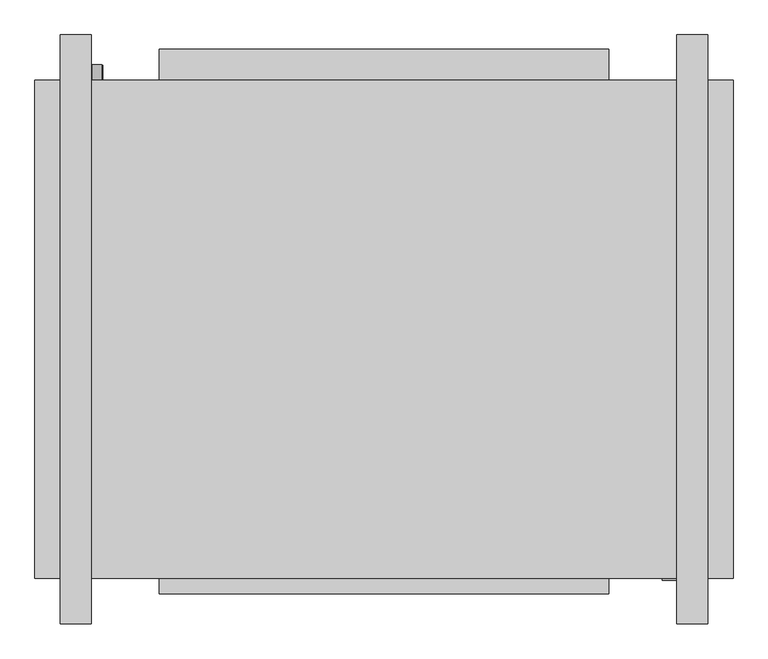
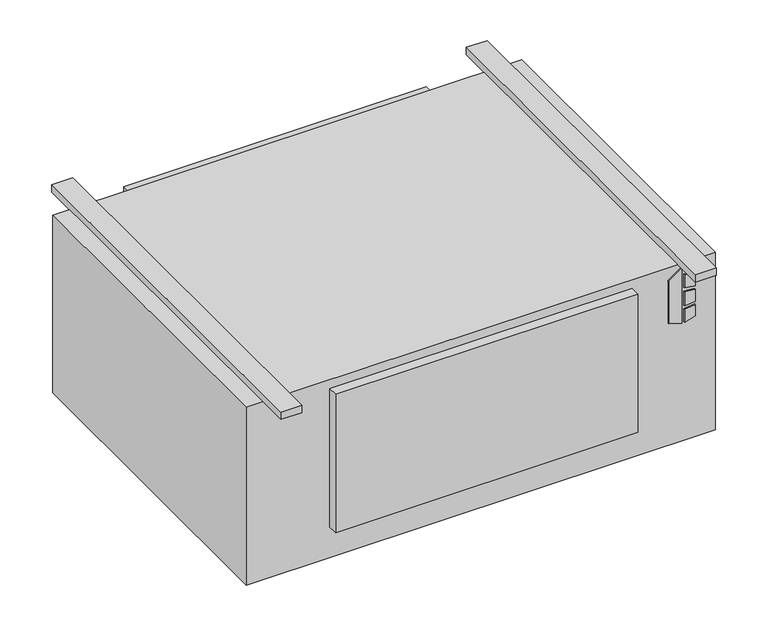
"""IFC4 building model written with IfcOpenShell, lengths in millimetres: proxy geometry, Concealed_High_Capacity_Horizontal_Cabinet_Fan_Coil_Unit_-_HXY_-_IEC_-_2-Pipe_Cool-EHeat_LH_2022 : Size 12 - 277v/60Hz/1Ph - 6 Row 9.0kW."""

from ifc_helpers import new_model, si_unit, point, frame, frame_2d, origin, origin_with_axes, place, context, project, spatial, polyline, circle_curve, trimmed, segment, composite_curve, outline, extrude, source, transform, mapped, element, save


def mechanical_equipment_fdf8b054(model_context):
    return source(origin(), model_context, "Body", "SweptSolid", [
        extrude(outline(polyline([(-142.4519297, 608.0868862), (-152.4, 640.2602728), (-10.2290756, 640.2602728), (-33.2510817, 608.0868862), (-142.4519297, 608.0868862)])), frame((0.0, -649.2875, 0.0), z_axis=(0.0, 1.0, 0.0), x_axis=(0.0, 0.0, 1.0)), (0.0, 0.0, 1.0), 3.175),
        extrude(outline(polyline([(-63.4526443, 647.0186058), (-66.6550368, 673.1), (-37.4261958, 673.1), (-29.3617807, 647.0186058), (-63.4526443, 647.0186058)])), frame((0.0, -649.2875, 0.0), z_axis=(0.0, 1.0, 0.0), x_axis=(0.0, 0.0, 1.0)), (0.0, 0.0, 1.0), 3.175),
        extrude(outline(polyline([(-115.3161712, 673.1), (-118.9816721, 647.0186058), (-152.4, 647.0186058), (-143.7657628, 673.1), (-115.3161712, 673.1)])), frame((0.0, -649.2875, 0.0), z_axis=(0.0, 1.0, 0.0), x_axis=(0.0, 0.0, 1.0)), (0.0, 0.0, 1.0), 3.175),
        extrude(outline(polyline([(-76.0010097, 673.1), (-73.7191834, 647.0186058), (-109.6567319, 647.0186058), (-106.9154669, 673.1), (-76.0010097, 673.1)])), frame((0.0, -649.2875, 0.0), z_axis=(0.0, 1.0, 0.0), x_axis=(0.0, 0.0, 1.0)), (0.0, 0.0, 1.0), 3.175),
        extrude(outline(composite_curve([segment(trimmed(circle_curve(frame_2d((-406.4, -317.5)), 9.525), [point((-406.4, -327.025))], [point((-406.4, -307.975))], False, "CARTESIAN"), True, "CONTINUOUS"), segment(trimmed(circle_curve(frame_2d((-406.4, -317.5)), 9.525), [point((-406.4, -307.975))], [point((-406.4, -327.025))], False, "CARTESIAN"), True, "CONTINUOUS")], self_intersect=False)), frame((0.0, 169.8625, 0.0), z_axis=(0.0, 1.0, 0.0), x_axis=(0.0, 0.0, 1.0)), (0.0, 0.0, 1.0), 25.4),
        extrude(outline(composite_curve([segment(trimmed(circle_curve(frame_2d((-330.2, -317.5)), 7.9375), [point((-330.2, -325.4375))], [point((-330.2, -309.5625))], False, "CARTESIAN"), True, "CONTINUOUS"), segment(trimmed(circle_curve(frame_2d((-330.2, -317.5)), 7.9375), [point((-330.2, -309.5625))], [point((-330.2, -325.4375))], False, "CARTESIAN"), True, "CONTINUOUS")], self_intersect=False)), frame((0.0, 169.8625, 0.0), z_axis=(0.0, 1.0, 0.0), x_axis=(0.0, 0.0, 1.0)), (0.0, 0.0, 1.0), 25.4),
        extrude(outline(composite_curve([segment(trimmed(circle_curve(frame_2d((-254.0, -317.5)), 7.9375), [point((-254.0, -325.4375))], [point((-254.0, -309.5625))], False, "CARTESIAN"), True, "CONTINUOUS"), segment(trimmed(circle_curve(frame_2d((-254.0, -317.5)), 7.9375), [point((-254.0, -309.5625))], [point((-254.0, -325.4375))], False, "CARTESIAN"), True, "CONTINUOUS")], self_intersect=False)), frame((0.0, 169.8625, 0.0), z_axis=(0.0, 1.0, 0.0), x_axis=(0.0, 0.0, 1.0)), (0.0, 0.0, 1.0), 25.4),
        extrude(outline(polyline([(723.9, 169.8625), (723.9, -646.1125), (-419.1, -646.1125), (-419.1, 169.8625), (723.9, 169.8625)])), frame((0.0, 0.0, -457.2), z_axis=(0.0, 0.0, 1.0), x_axis=(1.0, 0.0, 0.0)), (0.0, 0.0, 1.0), 457.2),
        extrude(outline(polyline([(-215.9, 220.6625), (520.7, 220.6625), (520.7, 169.8625), (-215.9, 169.8625), (-215.9, 220.6625)])), frame((0.0, 0.0, -377.825), z_axis=(0.0, 0.0, 1.0), x_axis=(1.0, 0.0, 0.0)), (0.0, 0.0, 1.0), 349.25),
        extrude(outline(polyline([(-327.025, 244.475), (-327.025, -720.725), (-377.825, -720.725), (-377.825, 244.475), (-327.025, 244.475)])), origin_with_axes(), (0.0, 0.0, 1.0), 19.05),
        extrude(outline(polyline([(682.625, 244.475), (682.625, -720.725), (631.825, -720.725), (631.825, 244.475), (682.625, 244.475)])), origin_with_axes(), (0.0, 0.0, 1.0), 19.05),
        extrude(outline(polyline([(520.7, -671.5125), (-215.9, -671.5125), (-215.9, -646.1125), (520.7, -646.1125), (520.7, -671.5125)])), frame((0.0, 0.0, -377.825), z_axis=(0.0, 0.0, 1.0), x_axis=(1.0, 0.0, 0.0)), (0.0, 0.0, 1.0), 355.6),
    ])


if __name__ == "__main__":
    model = new_model("IFC4")
    model_context = context("Model", 3, world=origin())
    ifc_project = project(units=[si_unit("LENGTHUNIT", "METRE", prefix="MILLI")], contexts=[model_context])
    site = spatial("IfcSite", under=ifc_project)
    building = spatial("IfcBuilding", under=site)
    placement = place(None, origin())
    mechanical_equipment_shape = mechanical_equipment_fdf8b054(model_context)
    element("IfcBuildingElementProxy", 1, Name="Concealed_High_Capacity_Horizontal_Cabinet_Fan_Coil_Unit_-_HXY_-_IEC_-_2-Pipe_Cool-EHeat_LH_2022 : Size 12 - 277v/60Hz/1Ph - 6 Row 9.0kW", ObjectType="Concealed_High_Capacity_Horizontal_Cabinet_Fan_Coil_Unit_-_HXY_-_IEC_-_2-Pipe_Cool-EHeat_LH_2022 : Size 12 - 277v/60Hz/1Ph - 6 Row 9.0kW", at=placement, inside=building, context=model_context, shape_type="MappedRepresentation", body=[
        mapped(mechanical_equipment_shape, transform((0.0, 0.0, 0.0), x_axis=(1.0, 0.0, 0.0), y_axis=(0.0, 1.0, 0.0), z_axis=(0.0, 0.0, 1.0))),
    ])
    save(model, "model.ifc")
